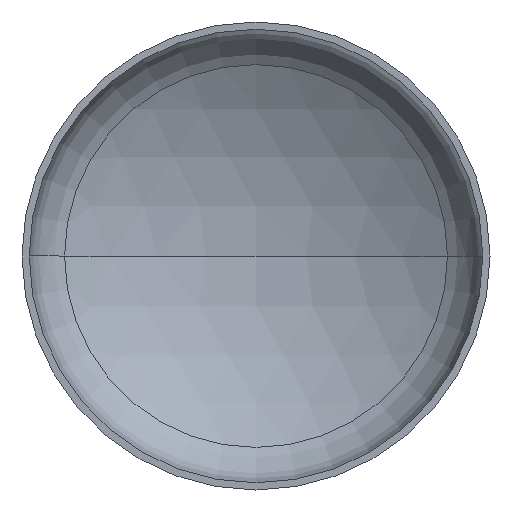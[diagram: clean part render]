
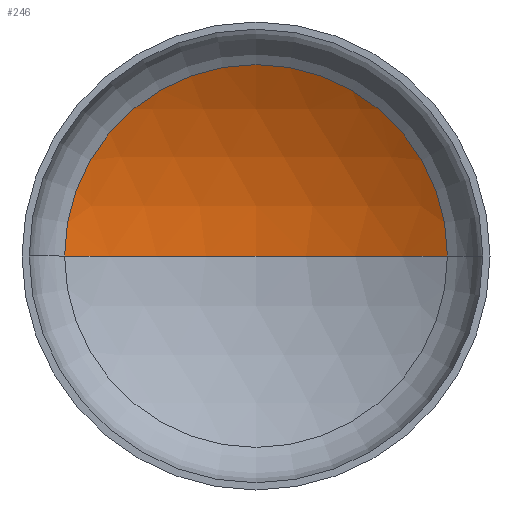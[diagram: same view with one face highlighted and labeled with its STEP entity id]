
A CAD part, front view. The second image highlights one B-rep face of the part: STEP entity #246.
In plain terms, the highlighted spherical face has radius 880 mm.
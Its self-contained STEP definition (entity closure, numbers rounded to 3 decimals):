
#17 = AXIS2_PLACEMENT_3D ( 'NONE', #237, #337, #83 ) ;
#34 = AXIS2_PLACEMENT_3D ( 'NONE', #238, #401, #404 ) ;
#37 = AXIS2_PLACEMENT_3D ( 'NONE', #138, #139, #268 ) ;
#46 = EDGE_LOOP ( 'NONE', ( #241, #141, #129 ) ) ;
#54 = AXIS2_PLACEMENT_3D ( 'NONE', #201, #360, #207 ) ;
#59 = VERTEX_POINT ( 'NONE', #349 ) ;
#62 = VERTEX_POINT ( 'NONE', #261 ) ;
#83 = DIRECTION ( 'NONE',  ( 1., 0., 0. ) ) ;
#85 = CIRCLE ( 'NONE', #37, 880. ) ;
#129 = ORIENTED_EDGE ( 'NONE', *, *, #357, .T. ) ;
#130 = VERTEX_POINT ( 'NONE', #194 ) ;
#138 = CARTESIAN_POINT ( 'NONE',  ( 0., -555.189, 0. ) ) ;
#139 = DIRECTION ( 'NONE',  ( 0., 0., -1. ) ) ;
#141 = ORIENTED_EDGE ( 'NONE', *, *, #347, .T. ) ;
#190 = CIRCLE ( 'NONE', #17, 449.915 ) ;
#194 = CARTESIAN_POINT ( 'NONE',  ( 449.915, 201.102, 0. ) ) ;
#201 = CARTESIAN_POINT ( 'NONE',  ( 0., -555.189, 0. ) ) ;
#207 = DIRECTION ( 'NONE',  ( -1., 0., 0. ) ) ;
#237 = CARTESIAN_POINT ( 'NONE',  ( 0., 201.102, 0. ) ) ;
#238 = CARTESIAN_POINT ( 'NONE',  ( 0., -555.189, 0. ) ) ;
#241 = ORIENTED_EDGE ( 'NONE', *, *, #348, .F. ) ;
#246 = ADVANCED_FACE ( 'NONE', ( #346 ), #289, .F. ) ;
#261 = CARTESIAN_POINT ( 'NONE',  ( -449.915, 201.102, 0. ) ) ;
#268 = DIRECTION ( 'NONE',  ( -1., 0., 0. ) ) ;
#289 = SPHERICAL_SURFACE ( 'NONE', #54, 880. ) ;
#325 = CIRCLE ( 'NONE', #34, 880. ) ;
#337 = DIRECTION ( 'NONE',  ( 0., -1., 0. ) ) ;
#346 = FACE_OUTER_BOUND ( 'NONE', #46, .T. ) ;
#347 = EDGE_CURVE ( 'NONE', #59, #130, #85, .T. ) ;
#348 = EDGE_CURVE ( 'NONE', #59, #62, #325, .T. ) ;
#349 = CARTESIAN_POINT ( 'NONE',  ( 0., 324.811, 0. ) ) ;
#357 = EDGE_CURVE ( 'NONE', #130, #62, #190, .T. ) ;
#360 = DIRECTION ( 'NONE',  ( 0., 0., -1. ) ) ;
#401 = DIRECTION ( 'NONE',  ( 0., 0., 1. ) ) ;
#404 = DIRECTION ( 'NONE',  ( 1., 0., 0. ) ) ;
